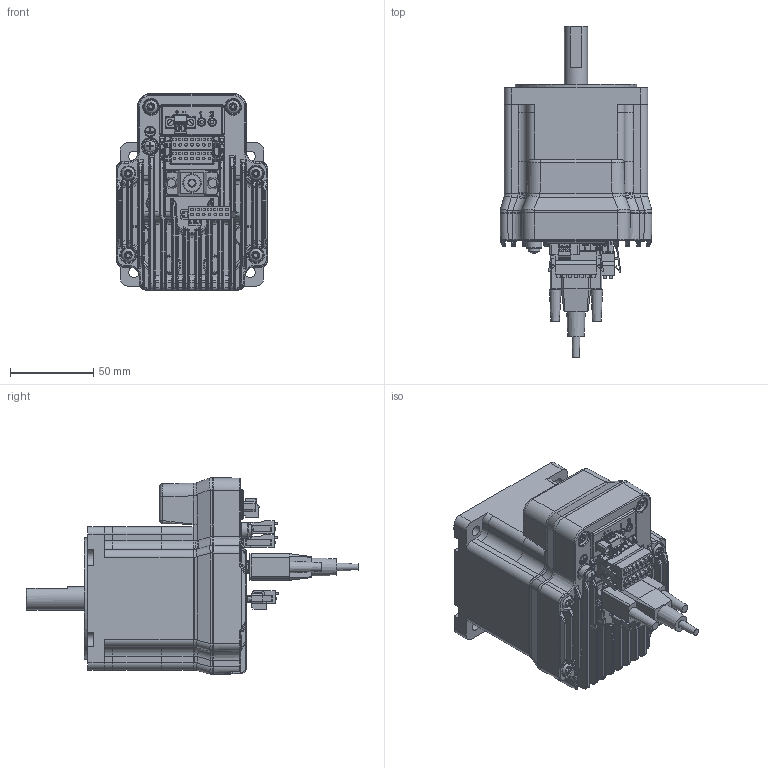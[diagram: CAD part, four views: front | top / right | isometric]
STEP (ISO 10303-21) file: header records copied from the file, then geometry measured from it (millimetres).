
FILE_DESCRIPTION(('LMDXPMA85 Single-Stack Web Model.stp'),'1');
FILE_NAME('T:/Kubotek Models For Design Assemblies/On-Line web models/LMD34/LMDXPMA85 Single-Stack Web Model.stp', '2013-06-04T19:23:36',('P. Bordua, 06-04-13'), ('Schneider Electric Motion USA'), 'KCM Version 1.1.606.0', 'Kubotek KeyCreator', 'Kubotek KeyCreator V2012 11.5.0 x64');
FILE_SCHEMA(('AUTOMOTIVE_DESIGN'));
Length unit declared in the file: inch
Products named in the file (6): DB9 Mate (cable, Female)[Part1]; Dinkle 0221-24-B3085308P, Pin-5 Keyed, Plug, 3.50mm Pitch, 7 x 1 Pos., Locking Tabs[Part1]; Dinkle 0221-24-B3085308P, Pin-2 Keyed, Plug, 3.50mm Pitch, 7 x 1 Pos., Locking Tabs[Part1]; Dinkle EC350VM-B3081302P, Plug, 3.50 mm, 2 x 1 Pos[Part1]
Bounding box: 91.24 x 199.43 x 118.12 mm (x, y, z)
Volume: 759528.8 mm3; surface area: 100696.8 mm2
Topology: 9 solids, 9 shells, 4054 faces, 10130 edges, 6376 vertices
Faces by surface type: plane 2089, cylinder 1064, bspline 721, cone 72, sphere 59, torus 49
Full cylindrical faces by diameter (mm): 1.092 x27, 1.6 x31, 1.611 x4, 1.686 x28, 2.261 x2, 2.5 x2, 2.743 x4, 3.792 x4, 5.004 x2, 6.502 x4, 6.858 x1, 8 x6, 9.006 x3, 14 x1, 15.748 x1, 66.396 x1, 73 x1
Entity records: 155575 total; most frequent: CARTESIAN_POINT 72273, ORIENTED_EDGE 16688, DIRECTION 13737, EDGE_CURVE 8344, VERTEX_POINT 5217, VECTOR 4665, LINE 4665, AXIS2_PLACEMENT_3D 4536
